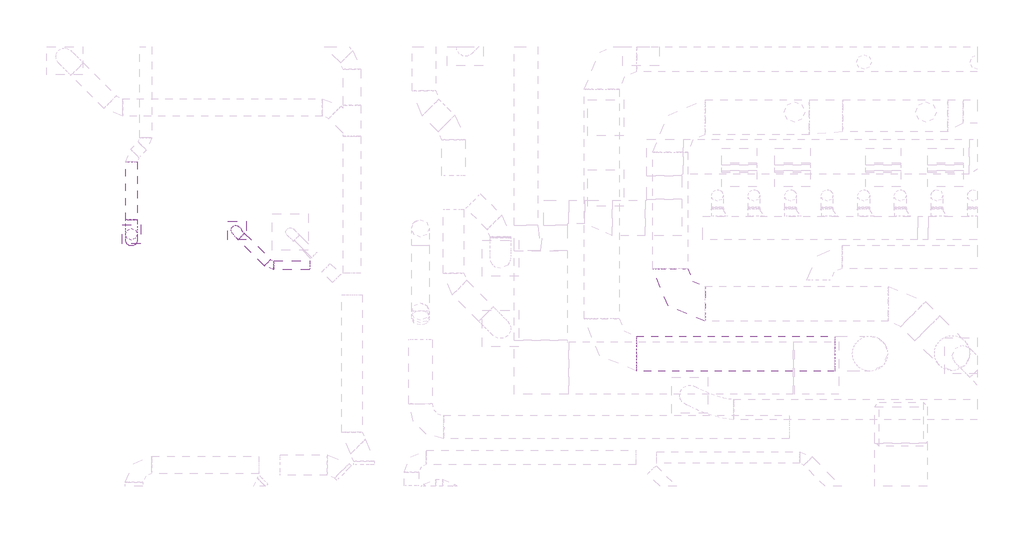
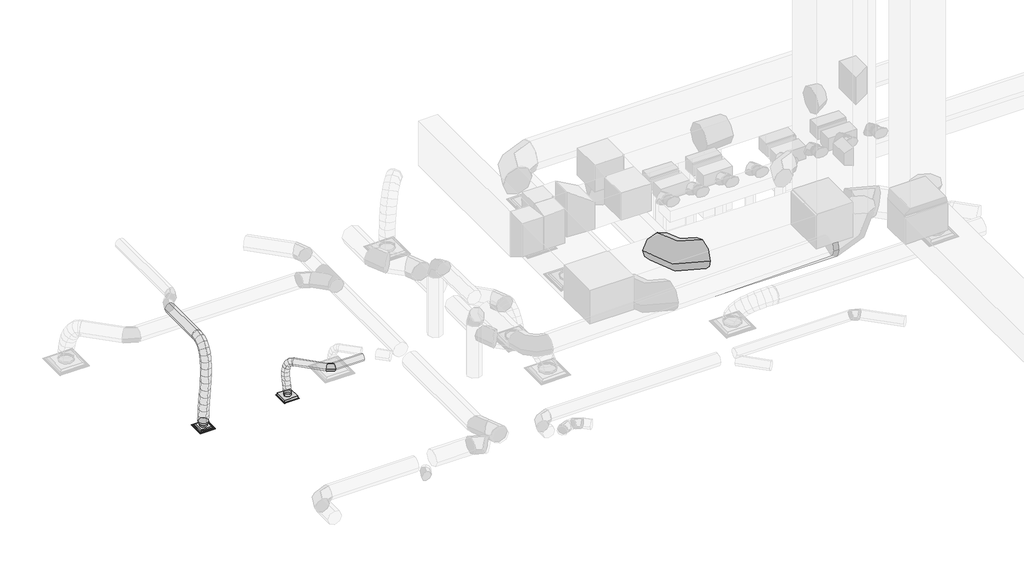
# One storey, part 11 of 33: 6 duct segments, 3 duct fittings, 2 air terminals.
"""IFC4 building model written with IfcOpenShell, lengths in millimetres."""

from ifc_helpers import new_model, si_unit, point, frame, frame_2d, origin, place, context, project, spatial, circle_curve, ellipse_curve, trimmed, segment, composite_curve, outline, extrude, transform, mapped, element, save
from ifc_brep_helpers import plane_surface, cylinder_surface, advanced_brep
from components import air_terminal_5d8b7fa0, par_aa_06_12x12_e7d1e0c0, round_elbow_1_d_29f30982, round_elbow_1_d_9a27e954, round_transition_angle_45_degree_998e22e1

model = new_model("IFC4")

# Units and contexts
model_context = context("Model", 3, world=origin())
ifc_project = project(units=[si_unit("LENGTHUNIT", "METRE", prefix="MILLI")], contexts=[model_context])

# Site, building, storey
site = spatial("IfcSite", under=ifc_project)
building = spatial("IfcBuilding", under=site)
storey = spatial("IfcBuildingStorey", under=building, Name="T.O. SLAB - 1ST", Elevation=-25.4)

# Air terminals
placement = place(None, origin())
air_terminal_shape = air_terminal_5d8b7fa0(model_context)
element("IfcAirTerminal", 1, ObjectType="Titus-Round_Neck_Supply_Diffuser-PCS_Surface_Mount : PCS AA-06_12x12", at=placement, inside=storey, context=model_context, shape_type="MappedRepresentation", body=[
    mapped(air_terminal_shape, transform((6882.6470293, 25157.126834, 2717.8), x_axis=(1.0, 0.0, 0.0), y_axis=(0.0, -1.0, 0.0), z_axis=(0.0, 0.0, -1.0))),
])
par_aa_06_12x12_shape = par_aa_06_12x12_e7d1e0c0(model_context)
element("IfcAirTerminal", 2, ObjectType="Titus-Round_Neck_Exhaust_Diffuser-PAR_Surface_Mount : PAR AA-06_12x12", at=placement, inside=storey, context=model_context, shape_type="MappedRepresentation", body=[
    mapped(par_aa_06_12x12_shape, transform((5048.7712182, 25093.9258798, 2717.8), x_axis=(1.0, 0.0, 0.0), y_axis=(0.0, -1.0, 0.0), z_axis=(0.0, 0.0, -1.0))),
])

# Duct fittings
round_elbow_1_d_shape = round_elbow_1_d_29f30982(model_context)
element("IfcDuctFitting", 3, ObjectType="Round Elbow : 1 D", at=placement, inside=storey, context=model_context, shape_type="MappedRepresentation", body=[
    mapped(round_elbow_1_d_shape, transform((14402.9161472, 23885.0043541, 3892.55), x_axis=(0.0, -1.0, 0.0), y_axis=(1.0, 0.0, 0.0), z_axis=(0.0, 0.0, 1.0))),
])
round_elbow_1_d_2_shape = round_elbow_1_d_9a27e954(model_context)
element("IfcDuctFitting", 4, ObjectType="Round Elbow : 1 D", at=placement, inside=storey, context=model_context, shape_type="MappedRepresentation", body=[
    mapped(round_elbow_1_d_2_shape, transform((7457.303957, 24555.6728157, 3530.6), x_axis=(0.7071067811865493, -0.7071067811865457, 0.0), y_axis=(0.7071067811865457, 0.7071067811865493, 0.0), z_axis=(0.0, 0.0, 1.0))),
])
round_transition_angle_45_degree_shape = round_transition_angle_45_degree_998e22e1(model_context)
element("IfcDuctFitting", 5, ObjectType="Round Transition - Angle : 45 Degree", at=placement, inside=storey, context=model_context, shape_type="MappedRepresentation", body=[
    mapped(round_transition_angle_45_degree_shape, transform((5048.7712182, 25093.9258798, 2787.65), x_axis=(0.0, 0.0, 1.0), y_axis=(-1.0, 0.0, 0.0), z_axis=(0.0, -1.0, 0.0))),
])

# Duct segments
element("IfcDuctSegment", 6, ObjectType="Flex - Round", at=placement, inside=storey, context=model_context, shape_type="AdvancedBrep", body=[
    advanced_brep(
    [(5150.3711106, 25343.878096, 4648.2), (5048.7711106, 25343.878096, 4546.6), (4947.1711106, 25343.878096, 4648.2), (5048.7711106, 25343.878096, 4749.8), (5150.3711106, 25328.5568769, 4648.2), (5048.7711106, 25337.4229846, 4546.6), (4947.1711106, 25328.5568753, 4648.2), (5048.7711106, 25319.6907676, 4749.8), (5150.3712182, 25093.9258889, 2848.9710245), (5048.7712273, 24992.3258798, 2848.9710245), (4947.1712182, 25093.9258708, 2848.9710245), (5048.7712092, 25195.5258798, 2848.9710245), (5150.3711121, 25228.3577176, 4630.5780776), (5048.7711117, 25263.1405868, 4533.5360316), (4947.1711121, 25228.3577115, 4630.5780768), (5048.7711125, 25193.5748422, 4727.6201228), (5150.3711165, 25139.3784599, 4580.3099056), (5048.7711146, 25205.7150144, 4501.0938802), (4947.1711165, 25139.3784484, 4580.3099018), (5048.7711185, 25073.0418939, 4659.5259272), (5150.3711233, 25074.0614517, 4501.2918757), (5048.7711191, 25161.6821917, 4447.8246475), (4947.1711233, 25074.0614368, 4501.2918677), (5048.7711274, 24986.4406969, 4554.7590958), (5150.3711319, 25029.5278225, 4397.420379), (5048.7711259, 25126.8202991, 4366.511783), (4947.1711319, 25029.5278062, 4397.4203676), (5048.7711379, 24932.2353296, 4428.3289635), (5150.3711419, 25002.8987022, 4272.5918075), (5048.7711346, 25103.6275367, 4257.7917291), (4947.1711419, 25002.8986853, 4272.5917939), (5048.7711493, 24902.1698508, 4287.3918723), (5150.3711529, 24991.2952204, 4130.7025536), (5048.7711448, 25092.9097449, 4126.7328359), (4947.1711529, 24991.2952034, 4130.7025389), (5048.7711611, 24889.6806789, 4134.6722566), (5150.3711644, 24991.8385066, 3975.6490096), (5048.7711557, 25093.4278805, 3978.8572606), (4947.1711644, 24991.8384897, 3975.6489944), (5048.7711731, 24890.2491158, 3972.4407434), (5150.3711759, 25001.6496904, 3811.3275677), (5048.7711668, 25102.9614391, 3819.1855918), (4947.1711759, 25001.6496735, 3811.3275528), (5048.7711849, 24900.3379248, 3803.4695287), (5150.3711868, 25017.8499012, 3641.6346203), (5048.7711776, 25118.8960474, 3652.2747604), (4947.1711868, 25017.8498842, 3641.634606), (5048.7711961, 24916.803738, 3630.9944659), (5150.3711969, 25037.5602684, 3470.4665595), (5048.7711876, 25138.4623641, 3482.3576575), (4947.1711969, 25037.5602513, 3470.4665463), (5048.7712062, 24936.6581555, 3458.5754483), (5150.3712055, 25057.9019214, 3301.7197774), (5048.7711963, 25158.8265599, 3313.4238691), (4947.1712055, 25057.901904, 3301.719766), (5048.7712148, 24956.9772655, 3290.0156743), (5150.3712123, 25075.9959895, 3139.2906662), (5048.7712031, 25177.1173645, 3149.2286692), (4947.1712123, 25075.9959719, 3139.2906573), (5048.7712215, 24974.8745969, 3129.3526544), (5150.3712167, 25088.9636023, 2987.0756179), (5048.7712076, 25190.4043385, 2993.2649288), (4947.1712167, 25088.9635843, 2987.0756127), (5048.7712258, 24987.5228481, 2980.8863018), (5150.3712182, 25093.9258889, 2852.6192977), (5048.7712092, 25195.5258798, 2854.4934995), (4947.1712182, 25093.9258708, 2852.6192962), (5048.7712273, 24992.3258798, 2850.7450944)],
    [
        (0, 1, circle_curve(frame((5048.7711106, 25343.878096, 4648.2), z_axis=(0.0, 1.0, 0.0), x_axis=(1.0, 0.0, 0.0)), 101.6)),
        (1, 2, circle_curve(frame((5048.7711106, 25343.878096, 4648.2), z_axis=(0.0, 1.0, 0.0), x_axis=(1.0, 0.0, 0.0)), 101.6)),
        (2, 3, circle_curve(frame((5048.7711106, 25343.878096, 4648.2), z_axis=(0.0, 1.0, 0.0), x_axis=(1.0, 0.0, 0.0)), 101.6)),
        (3, 0, circle_curve(frame((5048.7711106, 25343.878096, 4648.2), z_axis=(0.0, 1.0, 0.0), x_axis=(1.0, 0.0, 0.0)), 101.6)),
        (0, 4),
        (4, 5, ellipse_curve(frame((5048.7711106, 25328.5568761, 4648.2), z_axis=(-7.744870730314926e-09, 0.9962140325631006, 0.08693446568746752), x_axis=(8.875132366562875e-08, 0.08693446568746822, -0.9962140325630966)), 101.9861161, 101.6)),
        (5, 1),
        (5, 6, ellipse_curve(frame((5048.7711106, 25328.5568761, 4648.2), z_axis=(-7.744870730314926e-09, 0.9962140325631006, 0.08693446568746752), x_axis=(8.875132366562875e-08, 0.08693446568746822, -0.9962140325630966)), 101.9861161, 101.6)),
        (6, 2),
        (6, 7, ellipse_curve(frame((5048.7711106, 25328.5568761, 4648.2), z_axis=(-7.744870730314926e-09, 0.9962140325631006, 0.08693446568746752), x_axis=(8.875132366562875e-08, 0.08693446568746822, -0.9962140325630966)), 101.9861161, 101.6)),
        (7, 3),
        (7, 4, ellipse_curve(frame((5048.7711106, 25328.5568761, 4648.2), z_axis=(-7.744870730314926e-09, 0.9962140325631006, 0.08693446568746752), x_axis=(8.875132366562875e-08, 0.08693446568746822, -0.9962140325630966)), 101.9861161, 101.6)),
        (8, 9, circle_curve(frame((5048.7712182, 25093.9258798, 2848.9710245), z_axis=(0.0, 0.0, -1.0), x_axis=(0.999999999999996, 8.899683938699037e-08, 0.0)), 101.6)),
        (9, 10, circle_curve(frame((5048.7712182, 25093.9258798, 2848.9710245), z_axis=(0.0, 0.0, -1.0), x_axis=(0.999999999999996, 8.899683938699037e-08, 0.0)), 101.6)),
        (10, 11, circle_curve(frame((5048.7712182, 25093.9258798, 2848.9710245), z_axis=(0.0, 0.0, -1.0), x_axis=(0.999999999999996, 8.899683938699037e-08, 0.0)), 101.6)),
        (11, 8, circle_curve(frame((5048.7712182, 25093.9258798, 2848.9710245), z_axis=(0.0, 0.0, -1.0), x_axis=(0.999999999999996, 8.899683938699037e-08, 0.0)), 101.6)),
        (4, 12),
        (12, 13, ellipse_curve(frame((5048.7711121, 25228.3577145, 4630.5780772), z_axis=(-2.964965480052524e-08, 0.941357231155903, 0.3374115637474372), x_axis=(8.147756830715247e-08, 0.33741156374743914, -0.9413572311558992)), 103.0873747, 101.6)),
        (13, 5),
        (13, 14, ellipse_curve(frame((5048.7711121, 25228.3577145, 4630.5780772), z_axis=(-2.964965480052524e-08, 0.941357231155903, 0.3374115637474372), x_axis=(8.147756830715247e-08, 0.33741156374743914, -0.9413572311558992)), 103.0873747, 101.6)),
        (14, 6),
        (14, 15, ellipse_curve(frame((5048.7711121, 25228.3577145, 4630.5780772), z_axis=(-2.964965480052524e-08, 0.941357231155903, 0.3374115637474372), x_axis=(8.147756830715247e-08, 0.33741156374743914, -0.9413572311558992)), 103.0873747, 101.6)),
        (15, 7),
        (15, 12, ellipse_curve(frame((5048.7711121, 25228.3577145, 4630.5780772), z_axis=(-2.964965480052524e-08, 0.941357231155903, 0.3374115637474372), x_axis=(8.147756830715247e-08, 0.33741156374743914, -0.9413572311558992)), 103.0873747, 101.6)),
        (12, 16),
        (16, 17, ellipse_curve(frame((5048.7711165, 25139.3784541, 4580.3099037), z_axis=(-5.5353313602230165e-08, 0.7666806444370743, 0.6420286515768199), x_axis=(6.277442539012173e-08, 0.6420286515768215, -0.7666806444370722)), 103.3233643, 101.6)),
        (17, 13),
        (17, 18, ellipse_curve(frame((5048.7711165, 25139.3784541, 4580.3099037), z_axis=(-5.5353313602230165e-08, 0.7666806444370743, 0.6420286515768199), x_axis=(6.277442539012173e-08, 0.6420286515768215, -0.7666806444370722)), 103.3233643, 101.6)),
        (18, 14),
        (18, 19, ellipse_curve(frame((5048.7711165, 25139.3784541, 4580.3099037), z_axis=(-5.5353313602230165e-08, 0.7666806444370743, 0.6420286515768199), x_axis=(6.277442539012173e-08, 0.6420286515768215, -0.7666806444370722)), 103.3233643, 101.6)),
        (19, 15),
        (19, 16, ellipse_curve(frame((5048.7711165, 25139.3784541, 4580.3099037), z_axis=(-5.5353313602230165e-08, 0.7666806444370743, 0.6420286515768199), x_axis=(6.277442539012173e-08, 0.6420286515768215, -0.7666806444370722)), 103.3233643, 101.6)),
        (16, 20),
        (20, 21, ellipse_curve(frame((5048.7711233, 25074.0614443, 4501.2918717), z_axis=(-7.185633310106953e-08, 0.5208910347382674, 0.8536231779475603), x_axis=(3.706230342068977e-08, 0.8536231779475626, -0.520891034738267)), 102.6456985, 101.6)),
        (21, 17),
        (21, 22, ellipse_curve(frame((5048.7711233, 25074.0614443, 4501.2918717), z_axis=(-7.185633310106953e-08, 0.5208910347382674, 0.8536231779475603), x_axis=(3.706230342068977e-08, 0.8536231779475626, -0.520891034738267)), 102.6456985, 101.6)),
        (22, 18),
        (22, 23, ellipse_curve(frame((5048.7711233, 25074.0614443, 4501.2918717), z_axis=(-7.185633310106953e-08, 0.5208910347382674, 0.8536231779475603), x_axis=(3.706230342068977e-08, 0.8536231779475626, -0.520891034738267)), 102.6456985, 101.6)),
        (23, 19),
        (23, 20, ellipse_curve(frame((5048.7711233, 25074.0614443, 4501.2918717), z_axis=(-7.185633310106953e-08, 0.5208910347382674, 0.8536231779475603), x_axis=(3.706230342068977e-08, 0.8536231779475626, -0.520891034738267)), 102.6456985, 101.6)),
        (20, 24),
        (24, 25, ellipse_curve(frame((5048.7711319, 25029.5278144, 4397.4203733), z_axis=(-7.792946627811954e-08, 0.3027756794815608, 0.9530618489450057), x_axis=(1.19125142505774e-08, 0.9530618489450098, -0.3027756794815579)), 102.0841248, 101.6)),
        (25, 21),
        (25, 26, ellipse_curve(frame((5048.7711319, 25029.5278144, 4397.4203733), z_axis=(-7.792946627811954e-08, 0.3027756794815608, 0.9530618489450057), x_axis=(1.19125142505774e-08, 0.9530618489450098, -0.3027756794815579)), 102.0841248, 101.6)),
        (26, 22),
        (26, 27, ellipse_curve(frame((5048.7711319, 25029.5278144, 4397.4203733), z_axis=(-7.792946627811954e-08, 0.3027756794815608, 0.9530618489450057), x_axis=(1.19125142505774e-08, 0.9530618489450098, -0.3027756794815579)), 102.0841248, 101.6)),
        (27, 23),
        (27, 24, ellipse_curve(frame((5048.7711319, 25029.5278144, 4397.4203733), z_axis=(-7.792946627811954e-08, 0.3027756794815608, 0.9530618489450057), x_axis=(1.19125142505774e-08, 0.9530618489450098, -0.3027756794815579)), 102.0841248, 101.6)),
        (24, 28),
        (28, 29, ellipse_curve(frame((5048.7711419, 25002.8986938, 4272.5918007), z_axis=(-7.811710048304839e-08, 0.14536906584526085, 0.9893774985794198), x_axis=(-1.1875710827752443e-08, 0.9893774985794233, -0.14536906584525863)), 101.8103232, 101.6)),
        (29, 25),
        (29, 30, ellipse_curve(frame((5048.7711419, 25002.8986938, 4272.5918007), z_axis=(-7.811710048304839e-08, 0.14536906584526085, 0.9893774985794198), x_axis=(-1.1875710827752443e-08, 0.9893774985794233, -0.14536906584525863)), 101.8103232, 101.6)),
        (30, 26),
        (30, 31, ellipse_curve(frame((5048.7711419, 25002.8986938, 4272.5918007), z_axis=(-7.811710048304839e-08, 0.14536906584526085, 0.9893774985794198), x_axis=(-1.1875710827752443e-08, 0.9893774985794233, -0.14536906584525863)), 101.8103232, 101.6)),
        (31, 27),
        (31, 28, ellipse_curve(frame((5048.7711419, 25002.8986938, 4272.5918007), z_axis=(-7.811710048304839e-08, 0.14536906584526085, 0.9893774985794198), x_axis=(-1.1875710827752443e-08, 0.9893774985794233, -0.14536906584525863)), 101.8103232, 101.6)),
        (28, 32),
        (32, 33, ellipse_curve(frame((5048.7711529, 24991.2952119, 4130.7025462), z_axis=(-7.562074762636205e-08, 0.03903658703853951, 0.9992377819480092), x_axis=(-3.8565231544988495e-08, 0.9992377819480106, -0.03903658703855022)), 101.6920445, 101.6)),
        (33, 29),
        (33, 34, ellipse_curve(frame((5048.7711529, 24991.2952119, 4130.7025462), z_axis=(-7.562074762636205e-08, 0.03903658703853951, 0.9992377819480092), x_axis=(-3.8565231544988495e-08, 0.9992377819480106, -0.03903658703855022)), 101.6920445, 101.6)),
        (34, 30),
        (34, 35, ellipse_curve(frame((5048.7711529, 24991.2952119, 4130.7025462), z_axis=(-7.562074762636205e-08, 0.03903658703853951, 0.9992377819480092), x_axis=(-3.8565231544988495e-08, 0.9992377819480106, -0.03903658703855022)), 101.6920445, 101.6)),
        (35, 31),
        (35, 32, ellipse_curve(frame((5048.7711529, 24991.2952119, 4130.7025462), z_axis=(-7.562074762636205e-08, 0.03903658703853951, 0.9992377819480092), x_axis=(-3.8565231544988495e-08, 0.9992377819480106, -0.03903658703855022)), 101.6920445, 101.6)),
        (32, 36),
        (36, 37, ellipse_curve(frame((5048.7711644, 24991.8384982, 3975.649002), z_axis=(-7.179397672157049e-08, -0.03156491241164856, 0.9995017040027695), x_axis=(-7.647645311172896e-08, 0.9995017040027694, 0.03156491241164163)), 101.6400292, 101.6)),
        (37, 33),
        (37, 38, ellipse_curve(frame((5048.7711644, 24991.8384982, 3975.649002), z_axis=(-7.179397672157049e-08, -0.03156491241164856, 0.9995017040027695), x_axis=(-7.647645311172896e-08, 0.9995017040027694, 0.03156491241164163)), 101.6400292, 101.6)),
        (38, 34),
        (38, 39, ellipse_curve(frame((5048.7711644, 24991.8384982, 3975.649002), z_axis=(-7.179397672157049e-08, -0.03156491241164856, 0.9995017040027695), x_axis=(-7.647645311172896e-08, 0.9995017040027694, 0.03156491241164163)), 101.6400292, 101.6)),
        (39, 35),
        (39, 36, ellipse_curve(frame((5048.7711644, 24991.8384982, 3975.649002), z_axis=(-7.179397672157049e-08, -0.03156491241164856, 0.9995017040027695), x_axis=(-7.647645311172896e-08, 0.9995017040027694, 0.03156491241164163)), 101.6400292, 101.6)),
        (36, 40),
        (40, 41, ellipse_curve(frame((5048.7711759, 25001.649682, 3811.3275602), z_axis=(-6.705403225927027e-08, -0.07733061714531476, 0.9970055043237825), x_axis=(-1.4496656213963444e-07, 0.997005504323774, 0.07733061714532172)), 101.616046, 101.6)),
        (41, 37),
        (41, 42, ellipse_curve(frame((5048.7711759, 25001.649682, 3811.3275602), z_axis=(-6.705403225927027e-08, -0.07733061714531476, 0.9970055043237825), x_axis=(-1.4496656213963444e-07, 0.997005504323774, 0.07733061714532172)), 101.616046, 101.6)),
        (42, 38),
        (42, 43, ellipse_curve(frame((5048.7711759, 25001.649682, 3811.3275602), z_axis=(-6.705403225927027e-08, -0.07733061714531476, 0.9970055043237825), x_axis=(-1.4496656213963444e-07, 0.997005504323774, 0.07733061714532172)), 101.616046, 101.6)),
        (43, 39),
        (43, 40, ellipse_curve(frame((5048.7711759, 25001.649682, 3811.3275602), z_axis=(-6.705403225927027e-08, -0.07733061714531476, 0.9970055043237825), x_axis=(-1.4496656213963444e-07, 0.997005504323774, 0.07733061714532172)), 101.616046, 101.6)),
        (40, 44),
        (44, 45, ellipse_curve(frame((5048.7711868, 25017.8498927, 3641.6346131), z_axis=(-6.1393526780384e-08, -0.10472089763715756, 0.9945016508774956), x_axis=(-3.1608502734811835e-07, 0.9945016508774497, 0.10472089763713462)), 101.6048134, 101.6)),
        (45, 41),
        (45, 46, ellipse_curve(frame((5048.7711868, 25017.8498927, 3641.6346131), z_axis=(-6.1393526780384e-08, -0.10472089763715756, 0.9945016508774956), x_axis=(-3.1608502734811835e-07, 0.9945016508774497, 0.10472089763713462)), 101.6048134, 101.6)),
        (46, 42),
        (46, 47, ellipse_curve(frame((5048.7711868, 25017.8498927, 3641.6346131), z_axis=(-6.1393526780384e-08, -0.10472089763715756, 0.9945016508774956), x_axis=(-3.1608502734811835e-07, 0.9945016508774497, 0.10472089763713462)), 101.6048134, 101.6)),
        (47, 43),
        (47, 44, ellipse_curve(frame((5048.7711868, 25017.8498927, 3641.6346131), z_axis=(-6.1393526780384e-08, -0.10472089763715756, 0.9945016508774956), x_axis=(-3.1608502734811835e-07, 0.9945016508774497, 0.10472089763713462)), 101.6048134, 101.6)),
        (44, 48),
        (48, 49, ellipse_curve(frame((5048.7711969, 25037.5602598, 3470.4665529), z_axis=(-5.455751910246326e-08, -0.11703801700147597, 0.9931274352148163), x_axis=(-1.4124131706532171e-06, 0.9931274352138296, 0.11703801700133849)), 101.6003594, 101.6)),
        (49, 45),
        (49, 50, ellipse_curve(frame((5048.7711969, 25037.5602598, 3470.4665529), z_axis=(-5.455751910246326e-08, -0.11703801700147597, 0.9931274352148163), x_axis=(-1.4124131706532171e-06, 0.9931274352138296, 0.11703801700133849)), 101.6003594, 101.6)),
        (50, 46),
        (50, 51, ellipse_curve(frame((5048.7711969, 25037.5602598, 3470.4665529), z_axis=(-5.455751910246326e-08, -0.11703801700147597, 0.9931274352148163), x_axis=(-1.4124131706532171e-06, 0.9931274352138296, 0.11703801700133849)), 101.6003594, 101.6)),
        (51, 47),
        (51, 48, ellipse_curve(frame((5048.7711969, 25037.5602598, 3470.4665529), z_axis=(-5.455751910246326e-08, -0.11703801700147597, 0.9931274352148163), x_axis=(-1.4124131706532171e-06, 0.9931274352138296, 0.11703801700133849)), 101.6003594, 101.6)),
        (48, 52),
        (52, 53, ellipse_curve(frame((5048.7712055, 25057.9019127, 3301.7197717), z_axis=(-4.605330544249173e-08, -0.11519663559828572, 0.9933427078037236), x_axis=(-1.0519064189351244e-06, -0.9933427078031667, -0.11519663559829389)), 101.6010349, 101.6)),
        (53, 49),
        (53, 54, ellipse_curve(frame((5048.7712055, 25057.9019127, 3301.7197717), z_axis=(-4.605330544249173e-08, -0.11519663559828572, 0.9933427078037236), x_axis=(-1.0519064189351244e-06, -0.9933427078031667, -0.11519663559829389)), 101.6010349, 101.6)),
        (54, 50),
        (54, 55, ellipse_curve(frame((5048.7712055, 25057.9019127, 3301.7197717), z_axis=(-4.605330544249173e-08, -0.11519663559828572, 0.9933427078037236), x_axis=(-1.0519064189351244e-06, -0.9933427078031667, -0.11519663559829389)), 101.6010349, 101.6)),
        (55, 51),
        (55, 52, ellipse_curve(frame((5048.7712055, 25057.9019127, 3301.7197717), z_axis=(-4.605330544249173e-08, -0.11519663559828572, 0.9933427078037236), x_axis=(-1.0519064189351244e-06, -0.9933427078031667, -0.11519663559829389)), 101.6010349, 101.6)),
        (52, 56),
        (56, 57, ellipse_curve(frame((5048.7712123, 25075.9959807, 3139.2906618), z_axis=(-3.5042597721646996e-08, -0.09780679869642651, 0.9952054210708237), x_axis=(-4.82853855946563e-07, -0.9952054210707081, -0.09780679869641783)), 101.608554, 101.6)),
        (57, 53),
        (57, 58, ellipse_curve(frame((5048.7712123, 25075.9959807, 3139.2906618), z_axis=(-3.5042597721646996e-08, -0.09780679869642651, 0.9952054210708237), x_axis=(-4.82853855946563e-07, -0.9952054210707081, -0.09780679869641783)), 101.608554, 101.6)),
        (58, 54),
        (58, 59, ellipse_curve(frame((5048.7712123, 25075.9959807, 3139.2906618), z_axis=(-3.5042597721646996e-08, -0.09780679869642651, 0.9952054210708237), x_axis=(-4.82853855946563e-07, -0.9952054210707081, -0.09780679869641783)), 101.608554, 101.6)),
        (59, 55),
        (59, 56, ellipse_curve(frame((5048.7712123, 25075.9959807, 3139.2906618), z_axis=(-3.5042597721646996e-08, -0.09780679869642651, 0.9952054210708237), x_axis=(-4.82853855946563e-07, -0.9952054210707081, -0.09780679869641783)), 101.608554, 101.6)),
        (56, 60),
        (60, 61, ellipse_curve(frame((5048.7712167, 25088.9635933, 2987.0756153), z_axis=(-2.0227056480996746e-08, -0.060900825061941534, 0.9981438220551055), x_axis=(-3.5568975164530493e-07, -0.9981438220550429, -0.060900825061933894)), 101.6293874, 101.6)),
        (61, 57),
        (61, 62, ellipse_curve(frame((5048.7712167, 25088.9635933, 2987.0756153), z_axis=(-2.0227056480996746e-08, -0.060900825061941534, 0.9981438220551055), x_axis=(-3.5568975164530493e-07, -0.9981438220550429, -0.060900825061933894)), 101.6293874, 101.6)),
        (62, 58),
        (62, 63, ellipse_curve(frame((5048.7712167, 25088.9635933, 2987.0756153), z_axis=(-2.0227056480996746e-08, -0.060900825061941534, 0.9981438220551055), x_axis=(-3.5568975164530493e-07, -0.9981438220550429, -0.060900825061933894)), 101.6293874, 101.6)),
        (63, 59),
        (63, 60, ellipse_curve(frame((5048.7712167, 25088.9635933, 2987.0756153), z_axis=(-2.0227056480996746e-08, -0.060900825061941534, 0.9981438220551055), x_axis=(-3.5568975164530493e-07, -0.9981438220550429, -0.060900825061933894)), 101.6293874, 101.6)),
        (60, 64),
        (64, 65, ellipse_curve(frame((5048.7712182, 25093.9258798, 2852.6192969), z_axis=(-5.835023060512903e-09, -0.018443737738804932, 0.9998298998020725), x_axis=(-3.1631497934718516e-07, -0.9998298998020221, -0.018443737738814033)), 101.6172851, 101.6)),
        (65, 61),
        (65, 66, ellipse_curve(frame((5048.7712182, 25093.9258798, 2852.6192969), z_axis=(-5.835023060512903e-09, -0.018443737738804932, 0.9998298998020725), x_axis=(-3.1631497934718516e-07, -0.9998298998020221, -0.018443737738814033)), 101.6172851, 101.6)),
        (66, 62),
        (66, 67, ellipse_curve(frame((5048.7712182, 25093.9258798, 2852.6192969), z_axis=(-5.835023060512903e-09, -0.018443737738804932, 0.9998298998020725), x_axis=(-3.1631497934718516e-07, -0.9998298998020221, -0.018443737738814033)), 101.6172851, 101.6)),
        (67, 63),
        (67, 64, ellipse_curve(frame((5048.7712182, 25093.9258798, 2852.6192969), z_axis=(-5.835023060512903e-09, -0.018443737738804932, 0.9998298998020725), x_axis=(-3.1631497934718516e-07, -0.9998298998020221, -0.018443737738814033)), 101.6172851, 101.6)),
        (64, 8),
        (11, 65),
        (10, 66),
        (9, 67),
    ],
    [
        plane_surface(frame((4947.1711106, 25343.878096, 4648.2), z_axis=(0.0, 1.0, 0.0), x_axis=(0.0, 0.0, -1.0))),
        cylinder_surface(frame((5048.7711106, 25343.878096, 4648.2), z_axis=(0.0, 1.0, 0.0), x_axis=(1.0, 0.0, 0.0)), 101.6),
        plane_surface(frame((5048.7712182, 24992.3258798, 2848.9710245), z_axis=(0.0, 0.0, -1.0), x_axis=(-1.0, 0.0, 0.0))),
        cylinder_surface(frame((5048.7711106, 25328.5568761, 4648.2), z_axis=(-1.543109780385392e-08, 0.984884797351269, 0.17321066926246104), x_axis=(0.9999999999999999, 1.543109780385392e-08, 1.346592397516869e-09)), 101.6),
        cylinder_surface(frame((5048.7711121, 25228.3577145, 4630.5780772), z_axis=(-4.3012624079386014e-08, 0.8706653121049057, 0.49187591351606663), x_axis=(0.999999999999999, 4.304886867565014e-08, 1.1245656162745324e-08)), 101.6),
        cylinder_surface(frame((5048.7711165, 25139.3784541, 4580.3099037), z_axis=(-6.584749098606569e-08, 0.6371205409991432, 0.7707641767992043), x_axis=(0.9999999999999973, 6.624639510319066e-08, 3.067157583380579e-08)), 101.6),
        cylinder_surface(frame((5048.7711233, 25074.0614443, 4501.2918717), z_axis=(-7.640110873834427e-08, 0.39404841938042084, 0.919089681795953), x_axis=(0.9999999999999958, 7.78801960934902e-08, 4.9736757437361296e-08)), 101.6),
        cylinder_surface(frame((5048.7711319, 25029.5278144, 4397.4203733), z_axis=(-7.871867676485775e-08, 0.20863116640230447, 0.9779943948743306), x_axis=(0.9999999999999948, 8.2086980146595e-08, 6.297865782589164e-08)), 101.6),
        cylinder_surface(frame((5048.7711419, 25002.8986938, 4272.5918007), z_axis=(-7.719277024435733e-08, 0.08150634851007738, 0.9966728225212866), x_axis=(0.9999999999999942, 8.321345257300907e-08, 7.064539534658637e-08)), 101.6),
        cylinder_surface(frame((5048.7711529, 24991.2952119, 4130.7025462), z_axis=(-7.391183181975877e-08, -0.0035038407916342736, 0.9999938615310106), x_axis=(0.9999999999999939, 8.335248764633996e-08, 7.42043411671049e-08)), 101.6),
        cylinder_surface(frame((5048.7711644, 24991.8384982, 3975.649002), z_axis=(-6.961957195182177e-08, -0.05960112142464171, 0.9982222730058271), x_axis=(0.9999999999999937, 8.333622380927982e-08, 7.471933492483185e-08)), 101.6),
        cylinder_surface(frame((5048.7711759, 25001.649682, 3811.3275602), z_axis=(-6.446731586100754e-08, -0.09503569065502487, 0.9954738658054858), x_axis=(0.9999999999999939, 8.34904387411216e-08, 7.273107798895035e-08)), 101.6),
        cylinder_surface(frame((5048.7711868, 25017.8498927, 3641.6346131), z_axis=(-5.831392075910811e-08, -0.11439618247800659, 0.9934352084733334), x_axis=(0.9999999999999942, 8.395004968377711e-08, 6.83662964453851e-08)), 101.6),
        cylinder_surface(frame((5048.7711969, 25037.5602598, 3470.4665529), z_axis=(-5.080073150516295e-08, -0.11967902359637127, 0.9928126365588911), x_axis=(0.9999999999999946, 8.477249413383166e-08, 6.138743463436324e-08)), 101.6),
        cylinder_surface(frame((5048.7712055, 25057.9019127, 3301.7197717), z_axis=(-4.1304941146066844e-08, -0.1107119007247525, 0.9938525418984), x_axis=(0.999999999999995, 8.596131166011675e-08, 5.1136239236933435e-08)), 101.6),
        cylinder_surface(frame((5048.7712123, 25075.9959807, 3139.2906618), z_axis=(-2.8774354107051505e-08, -0.08488522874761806, 0.9963907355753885), x_axis=(0.9999999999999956, 8.741684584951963e-08, 3.6325862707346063e-08)), 101.6),
        cylinder_surface(frame((5048.7712167, 25088.9635933, 2987.0756153), z_axis=(-1.166806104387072e-08, -0.03688120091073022, 0.9993196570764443), x_axis=(0.999999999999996, 8.872105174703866e-08, 1.4950371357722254e-08)), 101.6),
        cylinder_surface(frame((5048.7712182, 25093.9258798, 2852.6192969), z_axis=(0.0, 0.0, 1.0), x_axis=(0.999999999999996, 8.899683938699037e-08, 0.0)), 101.6),
    ],
    [
        (0, [[1, 2, 3, 4]]),
        (1, [[-1, 5, 6, 7]]),
        (1, [[-2, -7, 8, 9]]),
        (1, [[-3, -9, 10, 11]]),
        (1, [[-4, -11, 12, -5]]),
        (2, [[13, 14, 15, 16]]),
        (3, [[-6, 17, 18, 19]]),
        (3, [[-8, -19, 20, 21]]),
        (3, [[-10, -21, 22, 23]]),
        (3, [[-12, -23, 24, -17]]),
        (4, [[-18, 25, 26, 27]]),
        (4, [[-20, -27, 28, 29]]),
        (4, [[-22, -29, 30, 31]]),
        (4, [[-24, -31, 32, -25]]),
        (5, [[-26, 33, 34, 35]]),
        (5, [[-28, -35, 36, 37]]),
        (5, [[-30, -37, 38, 39]]),
        (5, [[-32, -39, 40, -33]]),
        (6, [[-34, 41, 42, 43]]),
        (6, [[-36, -43, 44, 45]]),
        (6, [[-38, -45, 46, 47]]),
        (6, [[-40, -47, 48, -41]]),
        (7, [[-42, 49, 50, 51]]),
        (7, [[-44, -51, 52, 53]]),
        (7, [[-46, -53, 54, 55]]),
        (7, [[-48, -55, 56, -49]]),
        (8, [[-50, 57, 58, 59]]),
        (8, [[-52, -59, 60, 61]]),
        (8, [[-54, -61, 62, 63]]),
        (8, [[-56, -63, 64, -57]]),
        (9, [[-58, 65, 66, 67]]),
        (9, [[-60, -67, 68, 69]]),
        (9, [[-62, -69, 70, 71]]),
        (9, [[-64, -71, 72, -65]]),
        (10, [[-66, 73, 74, 75]]),
        (10, [[-68, -75, 76, 77]]),
        (10, [[-70, -77, 78, 79]]),
        (10, [[-72, -79, 80, -73]]),
        (11, [[-74, 81, 82, 83]]),
        (11, [[-76, -83, 84, 85]]),
        (11, [[-78, -85, 86, 87]]),
        (11, [[-80, -87, 88, -81]]),
        (12, [[-82, 89, 90, 91]]),
        (12, [[-84, -91, 92, 93]]),
        (12, [[-86, -93, 94, 95]]),
        (12, [[-88, -95, 96, -89]]),
        (13, [[-90, 97, 98, 99]]),
        (13, [[-92, -99, 100, 101]]),
        (13, [[-94, -101, 102, 103]]),
        (13, [[-96, -103, 104, -97]]),
        (14, [[-98, 105, 106, 107]]),
        (14, [[-100, -107, 108, 109]]),
        (14, [[-102, -109, 110, 111]]),
        (14, [[-104, -111, 112, -105]]),
        (15, [[-106, 113, 114, 115]]),
        (15, [[-108, -115, 116, 117]]),
        (15, [[-110, -117, 118, 119]]),
        (15, [[-112, -119, 120, -113]]),
        (16, [[-114, 121, 122, 123]]),
        (16, [[-116, -123, 124, 125]]),
        (16, [[-118, -125, 126, 127]]),
        (16, [[-120, -127, 128, -121]]),
        (17, [[-122, 129, -16, 130]]),
        (17, [[-124, -130, -15, 131]]),
        (17, [[-126, -131, -14, 132]]),
        (17, [[-128, -132, -13, -129]]),
    ],
),
])
element("IfcDuctSegment", 7, ObjectType="Flex - Round", at=placement, inside=storey, context=model_context, shape_type="AdvancedBrep", body=[
    advanced_brep(
    [(6904.0799065, 25001.1337928, 3530.6), (6957.9614432, 25055.0153295, 3454.4), (7011.84298, 25108.8968662, 3530.6), (6957.9614432, 25055.0153295, 3606.8), (6891.003648, 25014.2100512, 3530.6), (6953.8970108, 25059.079762, 3454.4), (6999.4452546, 25121.2945916, 3530.6), (6936.5518918, 25076.4248809, 3606.8), (6826.7460346, 25105.3434507, 2813.05), (6830.8636461, 25213.0278288, 2813.05), (6938.5480241, 25208.9102173, 2813.05), (6934.4304126, 25101.2258393, 2813.05), (6855.1542353, 25050.9985636, 3513.6252679), (6939.0558341, 25074.3097133, 3447.3726883), (6965.1329042, 25156.5057773, 3514.3530685), (6881.2313053, 25133.1946277, 3580.6056481), (6823.6136136, 25085.0487705, 3466.7964683), (6924.4922783, 25090.0320441, 3425.7499745), (6934.7674573, 25189.2873045, 3469.2690671), (6833.8887925, 25184.3040309, 3510.3155609), (6806.3404574, 25105.9258937, 3396.5608056), (6913.1079176, 25103.7917009, 3379.4591801), (6917.8621337, 25209.7198484, 3400.5290762), (6811.0946735, 25211.8540412, 3417.6307017), (6800.090479, 25116.4190687, 3309.0267325), (6907.8492887, 25112.6204856, 3305.8094524), (6911.6591315, 25220.1341545, 3313.6529277), (6803.9003218, 25223.9327376, 3316.8702079), (6801.7264539, 25119.2329645, 3209.8723929), (6909.3629576, 25115.2240137, 3214.0679229), (6913.2935856, 25222.9454345, 3214.5907627), (6805.6570819, 25226.9543854, 3210.3952326), (6808.2122641, 25116.9678552, 3104.8381271), (6915.6322331, 25113.034527, 3112.5403217), (6919.7995244, 25220.6732954, 3109.2305253), (6812.3795554, 25224.6066235, 3101.5283308), (6816.5376967, 25112.1951898, 2999.7454314), (6923.9095167, 25108.2894637, 3008.0554151), (6928.185071, 25215.8661688, 3003.3790042), (6820.813251, 25219.7718949, 2995.0690205), (6823.7026636, 25107.4762956, 2900.4926705), (6931.2441229, 25103.458844, 2906.4527253), (6935.4482241, 25211.0826086, 2902.7661195), (6827.9067648, 25215.1000602, 2896.8060646), (6826.7460346, 25105.3434507, 2815.9210318), (6934.4304126, 25101.2258393, 2817.9095438), (6938.5480241, 25208.9102173, 2816.6263836), (6830.8636461, 25213.0278288, 2814.6378715)],
    [
        (0, 1, circle_curve(frame((6957.9614432, 25055.0153295, 3530.6), z_axis=(0.7071067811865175, -0.7071067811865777, 0.0), x_axis=(-0.7071067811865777, -0.7071067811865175, 0.0)), 76.2)),
        (1, 2, circle_curve(frame((6957.9614432, 25055.0153295, 3530.6), z_axis=(0.7071067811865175, -0.7071067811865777, 0.0), x_axis=(-0.7071067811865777, -0.7071067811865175, 0.0)), 76.2)),
        (2, 3, circle_curve(frame((6957.9614432, 25055.0153295, 3530.6), z_axis=(0.7071067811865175, -0.7071067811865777, 0.0), x_axis=(-0.7071067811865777, -0.7071067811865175, 0.0)), 76.2)),
        (3, 0, circle_curve(frame((6957.9614432, 25055.0153295, 3530.6), z_axis=(0.7071067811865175, -0.7071067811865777, 0.0), x_axis=(-0.7071067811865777, -0.7071067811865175, 0.0)), 76.2)),
        (0, 4),
        (4, 5, ellipse_curve(frame((6945.2244513, 25067.7523214, 3530.6), z_axis=(0.6937123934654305, -0.7025037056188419, 0.158907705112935), x_axis=(0.1397394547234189, -0.08516186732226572, -0.9865193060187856)), 77.182231, 76.2)),
        (5, 1),
        (5, 6, ellipse_curve(frame((6945.2244513, 25067.7523214, 3530.6), z_axis=(0.6937123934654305, -0.7025037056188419, 0.158907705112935), x_axis=(0.1397394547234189, -0.08516186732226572, -0.9865193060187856)), 77.182231, 76.2)),
        (6, 2),
        (6, 7, ellipse_curve(frame((6945.2244513, 25067.7523214, 3530.6), z_axis=(0.6937123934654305, -0.7025037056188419, 0.158907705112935), x_axis=(0.1397394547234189, -0.08516186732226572, -0.9865193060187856)), 77.182231, 76.2)),
        (7, 3),
        (7, 4, ellipse_curve(frame((6945.2244513, 25067.7523214, 3530.6), z_axis=(0.6937123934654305, -0.7025037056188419, 0.158907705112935), x_axis=(0.1397394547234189, -0.08516186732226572, -0.9865193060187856)), 77.182231, 76.2)),
        (8, 9, circle_curve(frame((6882.6470293, 25157.126834, 2813.05), z_axis=(0.0, 0.0, -1.0), x_axis=(-0.7336088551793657, -0.6795719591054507, 0.0)), 76.2)),
        (9, 10, circle_curve(frame((6882.6470293, 25157.126834, 2813.05), z_axis=(0.0, 0.0, -1.0), x_axis=(-0.7336088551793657, -0.6795719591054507, 0.0)), 76.2)),
        (10, 11, circle_curve(frame((6882.6470293, 25157.126834, 2813.05), z_axis=(0.0, 0.0, -1.0), x_axis=(-0.7336088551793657, -0.6795719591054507, 0.0)), 76.2)),
        (11, 8, circle_curve(frame((6882.6470293, 25157.126834, 2813.05), z_axis=(0.0, 0.0, -1.0), x_axis=(-0.7336088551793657, -0.6795719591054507, 0.0)), 76.2)),
        (4, 12),
        (12, 13, ellipse_curve(frame((6910.1435697, 25103.7521705, 3513.9891682), z_axis=(0.5867234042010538, -0.6152212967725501, 0.5265533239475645), x_axis=(0.39477732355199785, -0.3504261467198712, -0.8493246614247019)), 78.3645013, 76.2)),
        (13, 5),
        (13, 14, ellipse_curve(frame((6910.1435697, 25103.7521705, 3513.9891682), z_axis=(0.5867234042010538, -0.6152212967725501, 0.5265533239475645), x_axis=(0.39477732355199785, -0.3504261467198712, -0.8493246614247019)), 78.3645013, 76.2)),
        (14, 6),
        (14, 15, ellipse_curve(frame((6910.1435697, 25103.7521705, 3513.9891682), z_axis=(0.5867234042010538, -0.6152212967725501, 0.5265533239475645), x_axis=(0.39477732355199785, -0.3504261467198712, -0.8493246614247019)), 78.3645013, 76.2)),
        (15, 7),
        (15, 12, ellipse_curve(frame((6910.1435697, 25103.7521705, 3513.9891682), z_axis=(0.5867234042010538, -0.6152212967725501, 0.5265533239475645), x_axis=(0.39477732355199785, -0.3504261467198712, -0.8493246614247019)), 78.3645013, 76.2)),
        (12, 16),
        (16, 17, ellipse_curve(frame((6879.1905354, 25137.1680375, 3468.0327677), z_axis=(0.36162103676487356, -0.4055251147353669, 0.8395115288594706), x_axis=(0.6059684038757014, -0.582085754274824, -0.5421978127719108)), 77.8600351, 76.2)),
        (17, 13),
        (17, 18, ellipse_curve(frame((6879.1905354, 25137.1680375, 3468.0327677), z_axis=(0.36162103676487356, -0.4055251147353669, 0.8395115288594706), x_axis=(0.6059684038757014, -0.582085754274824, -0.5421978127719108)), 77.8600351, 76.2)),
        (18, 14),
        (18, 19, ellipse_curve(frame((6879.1905354, 25137.1680375, 3468.0327677), z_axis=(0.36162103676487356, -0.4055251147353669, 0.8395115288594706), x_axis=(0.6059684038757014, -0.582085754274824, -0.5421978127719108)), 77.8600351, 76.2)),
        (19, 15),
        (19, 16, ellipse_curve(frame((6879.1905354, 25137.1680375, 3468.0327677), z_axis=(0.36162103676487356, -0.4055251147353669, 0.8395115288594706), x_axis=(0.6059684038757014, -0.582085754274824, -0.5421978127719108)), 77.8600351, 76.2)),
        (16, 20),
        (20, 21, ellipse_curve(frame((6862.1012955, 25157.8228711, 3398.5449409), z_axis=(0.1510985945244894, -0.1993649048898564, 0.9682059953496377), x_axis=(0.6853208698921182, -0.6847322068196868, -0.24794578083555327)), 76.7161862, 76.2)),
        (21, 17),
        (21, 22, ellipse_curve(frame((6862.1012955, 25157.8228711, 3398.5449409), z_axis=(0.1510985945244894, -0.1993649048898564, 0.9682059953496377), x_axis=(0.6853208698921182, -0.6847322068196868, -0.24794578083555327)), 76.7161862, 76.2)),
        (22, 18),
        (22, 23, ellipse_curve(frame((6862.1012955, 25157.8228711, 3398.5449409), z_axis=(0.1510985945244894, -0.1993649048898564, 0.9682059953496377), x_axis=(0.6853208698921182, -0.6847322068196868, -0.24794578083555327)), 76.7161862, 76.2)),
        (23, 19),
        (23, 20, ellipse_curve(frame((6862.1012955, 25157.8228711, 3398.5449409), z_axis=(0.1510985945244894, -0.1993649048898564, 0.9682059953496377), x_axis=(0.6853208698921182, -0.6847322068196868, -0.24794578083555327)), 76.7161862, 76.2)),
        (20, 24),
        (24, 25, ellipse_curve(frame((6855.8748052, 25168.2766116, 3311.3398301), z_axis=(0.027166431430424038, -0.0736906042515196, 0.9969110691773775), x_axis=(0.6926321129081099, -0.7176959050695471, -0.07192596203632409)), 76.3514414, 76.2)),
        (25, 21),
        (25, 26, ellipse_curve(frame((6855.8748052, 25168.2766116, 3311.3398301), z_axis=(0.027166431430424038, -0.0736906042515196, 0.9969110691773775), x_axis=(0.6926321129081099, -0.7176959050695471, -0.07192596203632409)), 76.3514414, 76.2)),
        (26, 22),
        (26, 27, ellipse_curve(frame((6855.8748052, 25168.2766116, 3311.3398301), z_axis=(0.027166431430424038, -0.0736906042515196, 0.9969110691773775), x_axis=(0.6926321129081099, -0.7176959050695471, -0.07192596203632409)), 76.3514414, 76.2)),
        (27, 23),
        (27, 24, ellipse_curve(frame((6855.8748052, 25168.2766116, 3311.3398301), z_axis=(0.027166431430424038, -0.0736906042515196, 0.9969110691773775), x_axis=(0.6926321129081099, -0.7176959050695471, -0.07192596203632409)), 76.3514414, 76.2)),
        (24, 28),
        (28, 29, ellipse_curve(frame((6857.5100197, 25171.0891995, 3212.2315778), z_axis=(-0.03907622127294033, -0.003424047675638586, 0.9992303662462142), x_axis=(0.6706847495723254, -0.7413641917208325, 0.023687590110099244)), 76.2431596, 76.2)),
        (29, 25),
        (29, 30, ellipse_curve(frame((6857.5100197, 25171.0891995, 3212.2315778), z_axis=(-0.03907622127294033, -0.003424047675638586, 0.9992303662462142), x_axis=(0.6706847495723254, -0.7413641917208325, 0.023687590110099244)), 76.2431596, 76.2)),
        (30, 26),
        (30, 31, ellipse_curve(frame((6857.5100197, 25171.0891995, 3212.2315778), z_axis=(-0.03907622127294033, -0.003424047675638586, 0.9992303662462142), x_axis=(0.6706847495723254, -0.7413641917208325, 0.023687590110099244)), 76.2431596, 76.2)),
        (31, 27),
        (31, 28, ellipse_curve(frame((6857.5100197, 25171.0891995, 3212.2315778), z_axis=(-0.03907622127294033, -0.003424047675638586, 0.9992303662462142), x_axis=(0.6706847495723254, -0.7413641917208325, 0.023687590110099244)), 76.2431596, 76.2)),
        (28, 32),
        (32, 33, ellipse_curve(frame((6864.0058942, 25168.8205753, 3107.0343262), z_axis=(-0.07026233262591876, 0.033376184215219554, 0.9969700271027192), x_axis=(0.5875270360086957, -0.8063085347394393, 0.06839977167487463)), 76.2082349, 76.2)),
        (33, 29),
        (33, 34, ellipse_curve(frame((6864.0058942, 25168.8205753, 3107.0343262), z_axis=(-0.07026233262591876, 0.033376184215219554, 0.9969700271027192), x_axis=(0.5875270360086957, -0.8063085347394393, 0.06839977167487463)), 76.2082349, 76.2)),
        (34, 30),
        (34, 35, ellipse_curve(frame((6864.0058942, 25168.8205753, 3107.0343262), z_axis=(-0.07026233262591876, 0.033376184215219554, 0.9969700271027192), x_axis=(0.5875270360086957, -0.8063085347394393, 0.06839977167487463)), 76.2082349, 76.2)),
        (35, 31),
        (35, 32, ellipse_curve(frame((6864.0058942, 25168.8205753, 3107.0343262), z_axis=(-0.07026233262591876, 0.033376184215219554, 0.9969700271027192), x_axis=(0.5875270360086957, -0.8063085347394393, 0.06839977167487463)), 76.2082349, 76.2)),
        (32, 36),
        (36, 37, ellipse_curve(frame((6872.3613839, 25164.0306793, 3001.5622178), z_axis=(-0.07540679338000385, 0.04629695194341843, 0.9960775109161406), x_axis=(-0.9542501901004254, -0.2932084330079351, -0.058612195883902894)), 76.2005083, 76.2)),
        (37, 33),
        (37, 38, ellipse_curve(frame((6872.3613839, 25164.0306793, 3001.5622178), z_axis=(-0.07540679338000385, 0.04629695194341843, 0.9960775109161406), x_axis=(-0.9542501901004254, -0.2932084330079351, -0.058612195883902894)), 76.2005083, 76.2)),
        (38, 34),
        (38, 39, ellipse_curve(frame((6872.3613839, 25164.0306793, 3001.5622178), z_axis=(-0.07540679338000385, 0.04629695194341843, 0.9960775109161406), x_axis=(-0.9542501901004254, -0.2932084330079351, -0.058612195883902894)), 76.2005083, 76.2)),
        (39, 35),
        (39, 36, ellipse_curve(frame((6872.3613839, 25164.0306793, 3001.5622178), z_axis=(-0.07540679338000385, 0.04629695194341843, 0.9960775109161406), x_axis=(-0.9542501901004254, -0.2932084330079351, -0.058612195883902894)), 76.2005083, 76.2)),
        (36, 40),
        (40, 41, ellipse_curve(frame((6879.5754438, 25159.2794521, 2901.629395), z_axis=(-0.053948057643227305, 0.03628946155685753, 0.9978841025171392), x_axis=(-0.8494668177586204, 0.5236272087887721, -0.06496669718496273)), 76.2170843, 76.2)),
        (41, 37),
        (41, 42, ellipse_curve(frame((6879.5754438, 25159.2794521, 2901.629395), z_axis=(-0.053948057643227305, 0.03628946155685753, 0.9978841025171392), x_axis=(-0.8494668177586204, 0.5236272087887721, -0.06496669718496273)), 76.2170843, 76.2)),
        (42, 38),
        (42, 43, ellipse_curve(frame((6879.5754438, 25159.2794521, 2901.629395), z_axis=(-0.053948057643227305, 0.03628946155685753, 0.9978841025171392), x_axis=(-0.8494668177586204, 0.5236272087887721, -0.06496669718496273)), 76.2170843, 76.2)),
        (43, 39),
        (43, 40, ellipse_curve(frame((6879.5754438, 25159.2794521, 2901.629395), z_axis=(-0.053948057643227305, 0.03628946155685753, 0.9978841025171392), x_axis=(-0.8494668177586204, 0.5236272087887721, -0.06496669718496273)), 76.2170843, 76.2)),
        (40, 44),
        (44, 45, ellipse_curve(frame((6882.6470293, 25157.126834, 2816.2737077), z_axis=(-0.01797984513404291, 0.012600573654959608, 0.9997589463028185), x_axis=(-0.8187202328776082, 0.5737727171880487, -0.021955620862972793)), 76.2183727, 76.2)),
        (45, 41),
        (45, 46, ellipse_curve(frame((6882.6470293, 25157.126834, 2816.2737077), z_axis=(-0.01797984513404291, 0.012600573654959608, 0.9997589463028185), x_axis=(-0.8187202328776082, 0.5737727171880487, -0.021955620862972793)), 76.2183727, 76.2)),
        (46, 42),
        (46, 47, ellipse_curve(frame((6882.6470293, 25157.126834, 2816.2737077), z_axis=(-0.01797984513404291, 0.012600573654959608, 0.9997589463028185), x_axis=(-0.8187202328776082, 0.5737727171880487, -0.021955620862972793)), 76.2183727, 76.2)),
        (47, 43),
        (47, 44, ellipse_curve(frame((6882.6470293, 25157.126834, 2816.2737077), z_axis=(-0.01797984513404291, 0.012600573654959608, 0.9997589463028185), x_axis=(-0.8187202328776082, 0.5737727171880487, -0.021955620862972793)), 76.2183727, 76.2)),
        (44, 8),
        (11, 45),
        (10, 46),
        (9, 47),
    ],
    [
        plane_surface(frame((6957.9614432, 25055.0153295, 3606.8), z_axis=(0.7071067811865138, -0.7071067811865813, 0.0), x_axis=(0.7071067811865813, 0.7071067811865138, 0.0))),
        cylinder_surface(frame((6957.9614432, 25055.0153295, 3530.6), z_axis=(0.7071067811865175, -0.7071067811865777, 0.0), x_axis=(-0.7071067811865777, -0.7071067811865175, 0.0)), 76.2),
        plane_surface(frame((6882.6470293, 25080.926834, 2813.05), z_axis=(0.0, 0.0, -1.0), x_axis=(-1.0, 0.0, 0.0))),
        cylinder_surface(frame((6945.2244513, 25067.7523214, 3530.6), z_axis=(0.6626614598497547, -0.6800203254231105, 0.3137708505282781), x_axis=(-0.7157315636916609, -0.698372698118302, -0.001975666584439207)), 76.2),
        cylinder_surface(frame((6910.1435697, 25103.7521705, 3513.9891682), z_axis=(0.4783736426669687, -0.5164362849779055, 0.7102480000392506), x_axis=(-0.7259135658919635, -0.6876961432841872, -0.011113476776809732)), 76.2),
        cylinder_surface(frame((6879.1905354, 25137.1680375, 3468.0327677), z_axis=(0.22944836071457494, -0.2773217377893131, 0.9329770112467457), x_axis=(-0.7310070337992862, -0.6819842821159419, -0.022938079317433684)), 76.2),
        cylinder_surface(frame((6862.1012955, 25157.8228711, 3398.5449409), z_axis=(0.07071548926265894, -0.1187252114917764, 0.9904057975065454), x_axis=(-0.7320045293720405, -0.6806681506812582, -0.029329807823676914)), 76.2),
        cylinder_surface(frame((6855.8748052, 25168.2766116, 3311.3398301), z_axis=(-0.016490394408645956, -0.028363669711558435, 0.9994616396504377), x_axis=(-0.7320606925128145, -0.6805158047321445, -0.03139079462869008)), 76.2),
        cylinder_surface(frame((6857.5100197, 25171.0891995, 3212.2315778), z_axis=(-0.06161780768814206, 0.021519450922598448, 0.9978678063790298), x_axis=(-0.7320943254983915, -0.6805187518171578, -0.030530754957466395)), 76.2),
        cylinder_surface(frame((6864.0058942, 25168.8205753, 3107.0343262), z_axis=(-0.07889167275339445, 0.04522570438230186, 0.9958567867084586), x_axis=(-0.7323350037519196, -0.680404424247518, -0.027115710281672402)), 76.2),
        cylinder_surface(frame((6872.3613839, 25164.0306793, 3001.5622178), z_axis=(-0.07192090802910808, 0.047367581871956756, 0.9962849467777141), x_axis=(-0.732830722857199, -0.6801000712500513, -0.02056756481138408)), 76.2),
        cylinder_surface(frame((6879.5754438, 25159.2794521, 2901.629395), z_axis=(-0.035951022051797, 0.02519507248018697, 0.9990359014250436), x_axis=(-0.7334424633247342, -0.6796885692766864, -0.009252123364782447)), 76.2),
        cylinder_surface(frame((6882.6470293, 25157.126834, 2816.2737077), z_axis=(0.0, 0.0, 0.9999999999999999), x_axis=(-0.7336088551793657, -0.6795719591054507, 0.0)), 76.2),
    ],
    [
        (0, [[1, 2, 3, 4]]),
        (1, [[-1, 5, 6, 7]]),
        (1, [[-2, -7, 8, 9]]),
        (1, [[-3, -9, 10, 11]]),
        (1, [[-4, -11, 12, -5]]),
        (2, [[13, 14, 15, 16]]),
        (3, [[-6, 17, 18, 19]]),
        (3, [[-8, -19, 20, 21]]),
        (3, [[-10, -21, 22, 23]]),
        (3, [[-12, -23, 24, -17]]),
        (4, [[-18, 25, 26, 27]]),
        (4, [[-20, -27, 28, 29]]),
        (4, [[-22, -29, 30, 31]]),
        (4, [[-24, -31, 32, -25]]),
        (5, [[-26, 33, 34, 35]]),
        (5, [[-28, -35, 36, 37]]),
        (5, [[-30, -37, 38, 39]]),
        (5, [[-32, -39, 40, -33]]),
        (6, [[-34, 41, 42, 43]]),
        (6, [[-36, -43, 44, 45]]),
        (6, [[-38, -45, 46, 47]]),
        (6, [[-40, -47, 48, -41]]),
        (7, [[-42, 49, 50, 51]]),
        (7, [[-44, -51, 52, 53]]),
        (7, [[-46, -53, 54, 55]]),
        (7, [[-48, -55, 56, -49]]),
        (8, [[-50, 57, 58, 59]]),
        (8, [[-52, -59, 60, 61]]),
        (8, [[-54, -61, 62, 63]]),
        (8, [[-56, -63, 64, -57]]),
        (9, [[-58, 65, 66, 67]]),
        (9, [[-60, -67, 68, 69]]),
        (9, [[-62, -69, 70, 71]]),
        (9, [[-64, -71, 72, -65]]),
        (10, [[-66, 73, 74, 75]]),
        (10, [[-68, -75, 76, 77]]),
        (10, [[-70, -77, 78, 79]]),
        (10, [[-72, -79, 80, -73]]),
        (11, [[-74, 81, 82, 83]]),
        (11, [[-76, -83, 84, 85]]),
        (11, [[-78, -85, 86, 87]]),
        (11, [[-80, -87, 88, -81]]),
        (12, [[-82, 89, -16, 90]]),
        (12, [[-84, -90, -15, 91]]),
        (12, [[-86, -91, -14, 92]]),
        (12, [[-88, -92, -13, -89]]),
    ],
),
])
element("IfcDuctSegment", 8, ObjectType="Taps", at=placement, inside=storey, context=model_context, shape_type="SweptSolid", body=[
    extrude(outline(composite_curve([segment(trimmed(circle_curve(frame_2d((4648.2, 5048.7711106)), 101.6), [point((4648.2, 4947.1711106))], [point((4546.6, 5048.7711106))], False, "CARTESIAN"), True, "CONTINUOUS"), segment(trimmed(circle_curve(frame_2d((4648.2, 5048.7711106)), 101.6), [point((4546.6, 5048.7711106))], [point((4648.2, 5150.3711106))], False, "CARTESIAN"), True, "CONTINUOUS"), segment(trimmed(circle_curve(frame_2d((4648.2, 5048.7711106)), 101.6), [point((4648.2, 5150.3711106))], [point((4749.8, 5048.7711106))], False, "CARTESIAN"), True, "CONTINUOUS"), segment(trimmed(circle_curve(frame_2d((4648.2, 5048.7711106)), 101.6), [point((4749.8, 5048.7711106))], [point((4648.2, 4947.1711106))], False, "CARTESIAN"), True, "CONTINUOUS")], self_intersect=False)), frame((0.0, 25343.878096, 0.0), z_axis=(0.0, 1.0, 0.0), x_axis=(0.0, 0.0, 1.0)), (0.0, 0.0, 1.0), 1006.9040622),
])
element("IfcDuctSegment", 9, ObjectType="Taps", at=placement, inside=storey, context=model_context, shape_type="SweptSolid", body=[
    extrude(outline(composite_curve([segment(trimmed(circle_curve(frame_2d((24555.6728157, 3530.6)), 76.2), [point((24631.8728157, 3530.6))], [point((24555.6728157, 3454.4))], False, "CARTESIAN"), True, "CONTINUOUS"), segment(trimmed(circle_curve(frame_2d((24555.6728157, 3530.6)), 76.2), [point((24555.6728157, 3454.4))], [point((24479.4728157, 3530.6))], False, "CARTESIAN"), True, "CONTINUOUS"), segment(trimmed(circle_curve(frame_2d((24555.6728157, 3530.6)), 76.2), [point((24479.4728157, 3530.6))], [point((24555.6728157, 3606.8))], False, "CARTESIAN"), True, "CONTINUOUS"), segment(trimmed(circle_curve(frame_2d((24555.6728157, 3530.6)), 76.2), [point((24555.6728157, 3606.8))], [point((24631.8728157, 3530.6))], False, "CARTESIAN"), True, "CONTINUOUS")], self_intersect=False)), frame((7520.4301039, 0.0, 0.0), z_axis=(1.0, 0.0, 0.0), x_axis=(0.0, 1.0, 0.0)), (0.0, 0.0, 1.0), 622.2730406),
])
element("IfcDuctSegment", 10, ObjectType="Taps", at=placement, inside=storey, context=model_context, shape_type="SweptSolid", body=[
    extrude(outline(composite_curve([segment(trimmed(circle_curve(frame_2d((0.0, 76.2)), 76.2), [point((76.2, 76.2))], [point((0.0, 0.0))], False, "CARTESIAN"), True, "CONTINUOUS"), segment(trimmed(circle_curve(frame_2d((0.0, 76.2)), 76.2), [point((0.0, 0.0))], [point((-76.2000001, 76.2))], False, "CARTESIAN"), True, "CONTINUOUS"), segment(trimmed(circle_curve(frame_2d((0.0, 76.2)), 76.2), [point((-76.2000001, 76.2))], [point((0.0, 152.4))], False, "CARTESIAN"), True, "CONTINUOUS"), segment(trimmed(circle_curve(frame_2d((0.0, 76.2)), 76.2), [point((0.0, 152.4))], [point((76.2, 76.2))], False, "CARTESIAN"), True, "CONTINUOUS")], self_intersect=False)), frame((7412.6670305, 24600.3097423, 3606.8), z_axis=(-0.7071067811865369, 0.7071067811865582, 0.0), x_axis=(0.7071067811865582, 0.7071067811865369, 0.0)), (0.0, 0.0, 1.0), 643.0508083),
])
element("IfcDuctSegment", 11, ObjectType="Tees", at=placement, inside=storey, context=model_context, shape_type="SweptSolid", body=[
    extrude(outline(composite_curve([segment(trimmed(circle_curve(frame_2d((23020.0042983, 3892.55)), 304.8), [point((22715.2042983, 3892.55))], [point((23020.0042983, 4197.35))], False, "CARTESIAN"), True, "CONTINUOUS"), segment(trimmed(circle_curve(frame_2d((23020.0042983, 3892.55)), 304.8), [point((23020.0042983, 4197.35))], [point((23324.8042983, 3892.55))], False, "CARTESIAN"), True, "CONTINUOUS"), segment(trimmed(circle_curve(frame_2d((23020.0042983, 3892.55)), 304.8), [point((23324.8042983, 3892.55))], [point((23020.0042983, 3587.75))], False, "CARTESIAN"), True, "CONTINUOUS"), segment(trimmed(circle_curve(frame_2d((23020.0042983, 3892.55)), 304.8), [point((23020.0042983, 3587.75))], [point((22715.2042983, 3892.55))], False, "CARTESIAN"), True, "CONTINUOUS")], self_intersect=False)), frame((13823.5872077, 0.0, 0.0), z_axis=(1.0, 0.0, 0.0), x_axis=(0.0, 1.0, 0.0)), (0.0, 0.0, 1.0), 3437.2606344),
])

save(model, "model.ifc")
